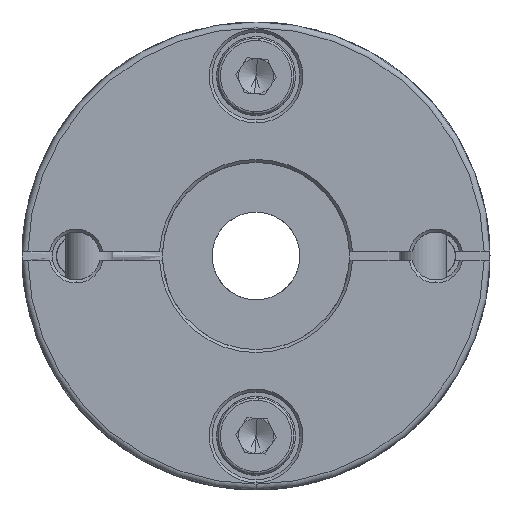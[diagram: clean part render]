
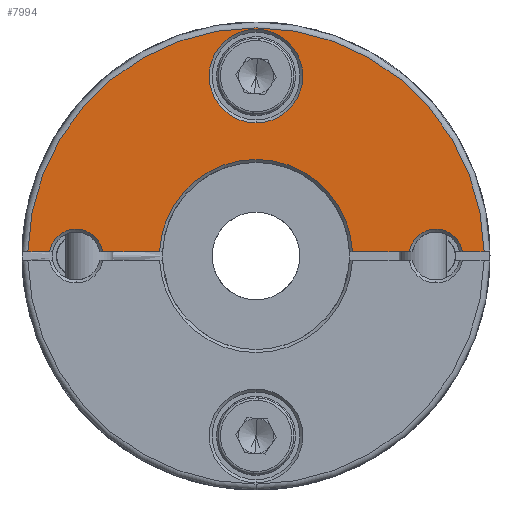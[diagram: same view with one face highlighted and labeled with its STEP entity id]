
A CAD part, front view. The second image highlights one B-rep face of the part: STEP entity #7994.
In plain terms, the highlighted planar face has unit normal (0, -1, 0).
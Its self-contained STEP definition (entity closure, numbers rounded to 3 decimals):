
#424 = CIRCLE ( 'NONE', #8202, 39. ) ;
#430 = CIRCLE ( 'NONE', #8210, 4.6 ) ;
#431 = CIRCLE ( 'NONE', #8208, 4.6 ) ;
#445 = CIRCLE ( 'NONE', #8222, 8. ) ;
#474 = VECTOR ( 'NONE', #12288, 1000. ) ;
#476 = LINE ( 'NONE', #12287, #474 ) ;
#479 = LINE ( 'NONE', #12305, #488 ) ;
#488 = VECTOR ( 'NONE', #12306, 1000. ) ;
#497 = LINE ( 'NONE', #12325, #500 ) ;
#500 = VECTOR ( 'NONE', #12326, 1000. ) ;
#513 = LINE ( 'NONE', #12345, #516 ) ;
#516 = VECTOR ( 'NONE', #12346, 1000. ) ;
#532 = CIRCLE ( 'NONE', #8245, 16.5 ) ;
#586 = EDGE_LOOP ( 'NONE', ( #17810, #17811 ) ) ;
#598 = EDGE_LOOP ( 'NONE', ( #17802, #17803, #17804, #17805, #17806, #17807, #17808, #17809 ) ) ;
#1238 = CARTESIAN_POINT ( 'NONE',  ( 38.993, -36.4, 0.75 ) ) ;
#2551 = CARTESIAN_POINT ( 'NONE',  ( -26.212, -36.4, 0.75 ) ) ;
#2572 = CARTESIAN_POINT ( 'NONE',  ( -35.288, -36.4, 0.75 ) ) ;
#2577 = CARTESIAN_POINT ( 'NONE',  ( 26.212, -36.4, 0.75 ) ) ;
#2706 = CARTESIAN_POINT ( 'NONE',  ( 16.483, -36.4, 0.75 ) ) ;
#2718 = CARTESIAN_POINT ( 'NONE',  ( -16.483, -36.4, 0.75 ) ) ;
#2763 = CARTESIAN_POINT ( 'NONE',  ( 35.288, -36.4, 0.75 ) ) ;
#2765 = CARTESIAN_POINT ( 'NONE',  ( -38.993, -36.4, 0.75 ) ) ;
#3270 = VERTEX_POINT ( 'NONE', #14317 ) ;
#3276 = VERTEX_POINT ( 'NONE', #14320 ) ;
#4946 = EDGE_CURVE ( 'NONE', #3276, #3270, #9976, .T. ) ;
#5990 = AXIS2_PLACEMENT_3D ( 'NONE', #24031, #24022, #24029 ) ;
#7786 = AXIS2_PLACEMENT_3D ( 'NONE', #23629, #23632, #23633 ) ;
#7994 = ADVANCED_FACE ( 'NONE', ( #9164, #9170 ), #23630, .T. ) ;
#8202 = AXIS2_PLACEMENT_3D ( 'NONE', #11986, #11988, #11990 ) ;
#8208 = AXIS2_PLACEMENT_3D ( 'NONE', #12060, #12062, #12063 ) ;
#8210 = AXIS2_PLACEMENT_3D ( 'NONE', #12090, #12092, #12093 ) ;
#8222 = AXIS2_PLACEMENT_3D ( 'NONE', #12160, #12161, #12162 ) ;
#8245 = AXIS2_PLACEMENT_3D ( 'NONE', #12426, #12427, #12428 ) ;
#9164 = FACE_OUTER_BOUND ( 'NONE', #598, .T. ) ;
#9170 = FACE_BOUND ( 'NONE', #586, .T. ) ;
#9976 = CIRCLE ( 'NONE', #5990, 8. ) ;
#11986 = CARTESIAN_POINT ( 'NONE',  ( 0., -36.4, 0. ) ) ;
#11988 = DIRECTION ( 'NONE',  ( 0., -1., 0. ) ) ;
#11990 = DIRECTION ( 'NONE',  ( 0., 0., -1. ) ) ;
#12060 = CARTESIAN_POINT ( 'NONE',  ( 30.75, -36.4, 0. ) ) ;
#12062 = DIRECTION ( 'NONE',  ( 0., 1., 0. ) ) ;
#12063 = DIRECTION ( 'NONE',  ( 0., 0., -1. ) ) ;
#12090 = CARTESIAN_POINT ( 'NONE',  ( -30.75, -36.4, 0. ) ) ;
#12092 = DIRECTION ( 'NONE',  ( 0., 1., 0. ) ) ;
#12093 = DIRECTION ( 'NONE',  ( 0., 0., -1. ) ) ;
#12160 = CARTESIAN_POINT ( 'NONE',  ( 0., -36.4, 30.75 ) ) ;
#12161 = DIRECTION ( 'NONE',  ( 0., 1., 0. ) ) ;
#12162 = DIRECTION ( 'NONE',  ( 0., 0., -1. ) ) ;
#12287 = CARTESIAN_POINT ( 'NONE',  ( 0., -36.4, 0.75 ) ) ;
#12288 = DIRECTION ( 'NONE',  ( 1., 0., 0. ) ) ;
#12305 = CARTESIAN_POINT ( 'NONE',  ( 0., -36.4, 0.75 ) ) ;
#12306 = DIRECTION ( 'NONE',  ( 1., 0., 0. ) ) ;
#12325 = CARTESIAN_POINT ( 'NONE',  ( 0., -36.4, 0.75 ) ) ;
#12326 = DIRECTION ( 'NONE',  ( 1., 0., 0. ) ) ;
#12345 = CARTESIAN_POINT ( 'NONE',  ( 0., -36.4, 0.75 ) ) ;
#12346 = DIRECTION ( 'NONE',  ( 1., 0., 0. ) ) ;
#12426 = CARTESIAN_POINT ( 'NONE',  ( 0., -36.4, 0. ) ) ;
#12427 = DIRECTION ( 'NONE',  ( 0., 1., 0. ) ) ;
#12428 = DIRECTION ( 'NONE',  ( 1., 0., 0. ) ) ;
#12941 = EDGE_CURVE ( 'NONE', #23072, #23044, #424, .T. ) ;
#12950 = EDGE_CURVE ( 'NONE', #22856, #23042, #431, .T. ) ;
#12954 = EDGE_CURVE ( 'NONE', #22851, #22827, #430, .T. ) ;
#12968 = EDGE_CURVE ( 'NONE', #3270, #3276, #445, .T. ) ;
#12995 = EDGE_CURVE ( 'NONE', #22827, #22997, #476, .T. ) ;
#13003 = EDGE_CURVE ( 'NONE', #23044, #22851, #479, .T. ) ;
#13009 = EDGE_CURVE ( 'NONE', #23042, #23072, #497, .T. ) ;
#13018 = EDGE_CURVE ( 'NONE', #22985, #22856, #513, .T. ) ;
#13033 = EDGE_CURVE ( 'NONE', #22997, #22985, #532, .T. ) ;
#14317 = CARTESIAN_POINT ( 'NONE',  ( 0., -36.4, 38.75 ) ) ;
#14320 = CARTESIAN_POINT ( 'NONE',  ( 0., -36.4, 22.75 ) ) ;
#17802 = ORIENTED_EDGE ( 'NONE', *, *, #12995, .T. ) ;
#17803 = ORIENTED_EDGE ( 'NONE', *, *, #13033, .T. ) ;
#17804 = ORIENTED_EDGE ( 'NONE', *, *, #13018, .T. ) ;
#17805 = ORIENTED_EDGE ( 'NONE', *, *, #12950, .T. ) ;
#17806 = ORIENTED_EDGE ( 'NONE', *, *, #13009, .T. ) ;
#17807 = ORIENTED_EDGE ( 'NONE', *, *, #12941, .T. ) ;
#17808 = ORIENTED_EDGE ( 'NONE', *, *, #13003, .T. ) ;
#17809 = ORIENTED_EDGE ( 'NONE', *, *, #12954, .T. ) ;
#17810 = ORIENTED_EDGE ( 'NONE', *, *, #4946, .T. ) ;
#17811 = ORIENTED_EDGE ( 'NONE', *, *, #12968, .T. ) ;
#22827 = VERTEX_POINT ( 'NONE', #2551 ) ;
#22851 = VERTEX_POINT ( 'NONE', #2572 ) ;
#22856 = VERTEX_POINT ( 'NONE', #2577 ) ;
#22985 = VERTEX_POINT ( 'NONE', #2706 ) ;
#22997 = VERTEX_POINT ( 'NONE', #2718 ) ;
#23042 = VERTEX_POINT ( 'NONE', #2763 ) ;
#23044 = VERTEX_POINT ( 'NONE', #2765 ) ;
#23072 = VERTEX_POINT ( 'NONE', #1238 ) ;
#23629 = CARTESIAN_POINT ( 'NONE',  ( 0., -36.4, 0. ) ) ;
#23630 = PLANE ( 'NONE',  #7786 ) ;
#23632 = DIRECTION ( 'NONE',  ( 0., -1., 0. ) ) ;
#23633 = DIRECTION ( 'NONE',  ( 0., 0., -1. ) ) ;
#24022 = DIRECTION ( 'NONE',  ( 0., 1., 0. ) ) ;
#24029 = DIRECTION ( 'NONE',  ( 0., 0., -1. ) ) ;
#24031 = CARTESIAN_POINT ( 'NONE',  ( 0., -36.4, 30.75 ) ) ;
